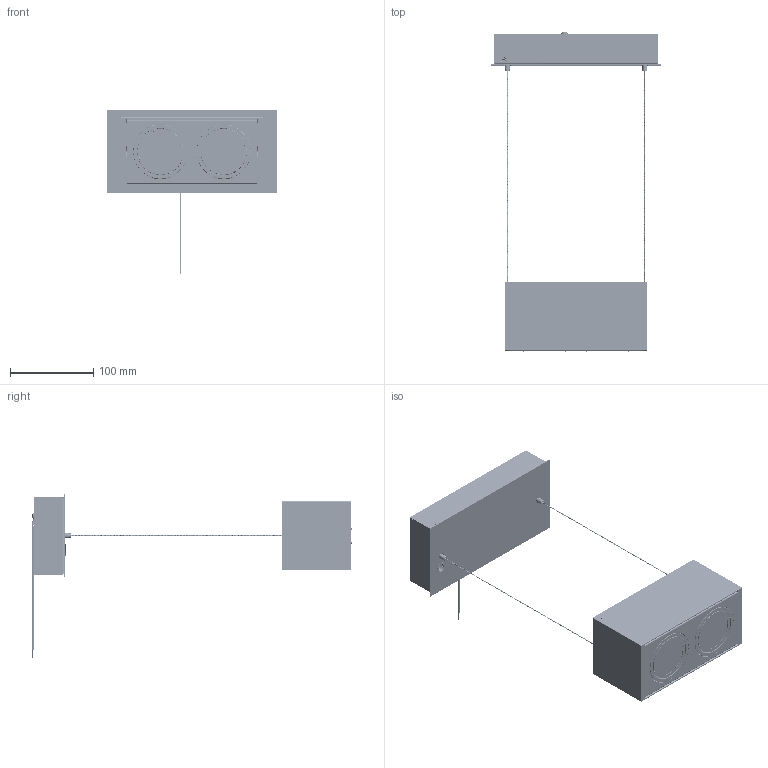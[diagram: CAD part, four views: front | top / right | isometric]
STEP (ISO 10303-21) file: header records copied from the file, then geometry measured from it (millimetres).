
FILE_DESCRIPTION (( 'STEP AP214' ), '1' );
FILE_NAME ('800294.STEP', '2023-12-11T18:17:25', ( '' ), ( '' ), 'SwSTEP 2.0', 'SolidWorks 2020', '' );
FILE_SCHEMA (( 'AUTOMOTIVE_DESIGN' ));
Length unit declared in the file: millimetre
Products named in the file (76): IP-438-49222; 3.STEP; 200013; MDR-R1_RevA1; 100476; IMPORTED1_1_1_2_1_1_1_1_1_2_1.stp; IPBSW1; IP-6-32X3-16FHP_90471A431; FA-SCR-8-32X1-2-WELD; WI-CON-BUSH-BLK-500; 821079; 320033(1-1098-M)_K3 updated drawing 20201203.stp; LEM_880064; WIRE 6 INCH 18 AWG GREEN_Straight; IP-M2-5X3CUPSSSS_92015A094; CSS-CAB-116-75-SS; 440055; 210-00001; SCR-M3X5WHP; 740034_STRAIGHT; IP-M3X8PHP_92005A118; TLW-M3ETLW_91120A120; DPK_880065-2; NW-M3_95610A130; 290106; 800294; IP-M3-5PHP_90116A147; NFCWL036B-V4_3D.STEP; 430034-IPBSN-10mm X 1.0 X 19_5 THREAD LENGTH; IP-M3X10FHP_91420A120; 580498; 420016_90134A032; 1X2 Cylinder Assembly; 320033; 821077; FW-M3FWSS_91166A210; NFCWL036B-V4_3D; 100478; IP-3-8-CLAMP_8876T38; IP-M2-5X10FHP_91420A020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
Assembly tree (141 placements, depth 6):
  800294
    DPK_880065-2
      821079
        890813
          580498
          PEM-STUD-FH-0420-6ZI_93580A563  x2
        RIVET-3MM-STEEL
        TLW-M3ETLW_91120A120
        FW-M3FWSS_91166A210
        740034_STRAIGHT
          WIRE 6 INCH 18 AWG GREEN_Straight
          RING TERMINAL NON INSULATED
      MDR-R1_RevA1  x2
      IP-3-8-CLAMP_8876T38
      IP-M3-5PHP_90116A147  x4
      IP-M3X9LDFW_91100A120
      CSS-MGR-SE-1420-EXT  x2
    900390_FINISHED 
      471231_FINISHED
      471227_FINISHED
    1X2 Cylinder Assembly
      230225_6.25 SUSPENDED CABLE
      580502  x2
      530406
      430034-IPBSN-10mm X 1.0 X 19_5 THREAD LENGTH  x2
      580307  x2
      440055  x4
      IPBSW1  x2
      420016_90134A032  x2
      530408
      210-00001  x2
      580501  x2
      IP-6-32X3-16FHP_90471A431  x4
      IP-M3X8PHP_92005A118  x4
      FA-PIN-M3X12_91595A112  x8
      IP-8-32KEPNUT_90675A009  x2
      FA-SCR-8-32X1-2-WELD  x2
      LEM_880064
        821077
          100475
          100476
          NW-M3_95610A130
          SCR-M3X12PHP_92005A118
          430049_compressed
          440062
          430041  x2
        100477
        100478
        200013
        IP-M2-5X3CUPSSSS_92015A094
        290106
        IP-M2-5X10FHP_91420A020  x4
        320033
          320033(1-1098-M)_K3 updated drawing 20201203.stp
            IMPORTED1_1_1_2_1_1_1_1_1_2_1.stp
            48.stp
        SCR-M3X5WHP  x2
        IP-438-49222
          IP-438-48712
          IP-430-48720
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Bounding box: 203 x 384.93 x 196.74 mm (x, y, z)
Volume: 533596.5 mm3; surface area: 556489.3 mm2
Topology: 147 solids, 151 shells, 14033 faces, 36570 edges, 22523 vertices
Faces by surface type: cylinder 4078, bspline 3752, plane 2981, torus 1378, cone 1332, sphere 512
Entity records: 335200 total; most frequent: CARTESIAN_POINT 172856, ORIENTED_EDGE 35434, DIRECTION 27977, EDGE_CURVE 17717, VERTEX_POINT 10987, AXIS2_PLACEMENT_3D 10773, EDGE_LOOP 7252, ADVANCED_FACE 6902
